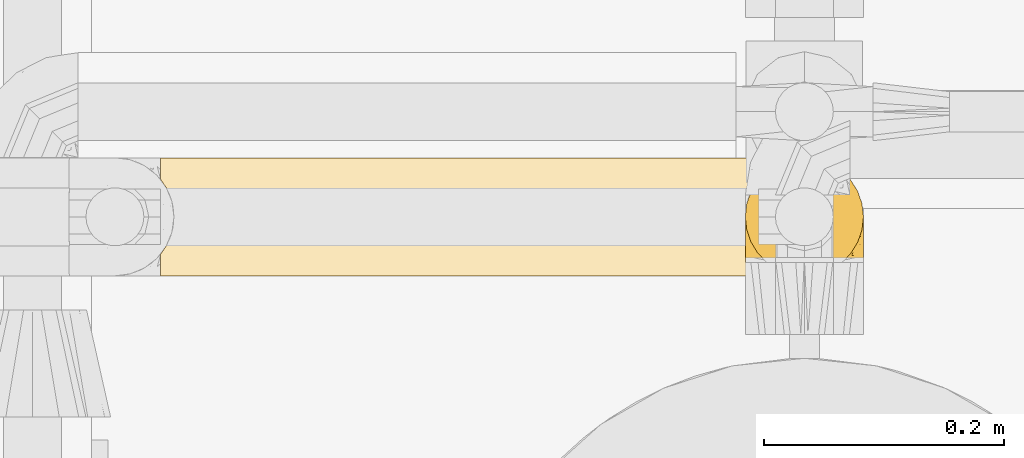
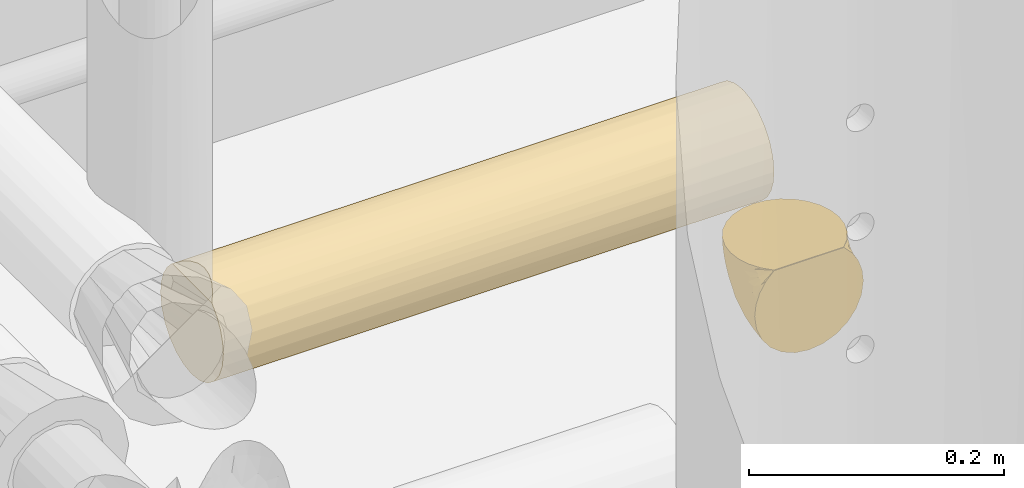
# One storey, part 37 of 94: 2 coverings.
"""IFC2X3 building model written with IfcOpenShell, lengths in millimetres."""

from ifc_helpers import new_model, entity, si_unit, converted_unit, derived_unit, direction, frame, origin, place, context, subcontext, project, spatial, faceted_brep, material, element, save


model = new_model("IFC2X3")

# Units and contexts
model_context = context("Model", 3, precision=0.01, world=origin(), true_north=direction((6.123031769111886e-17, 1.0)))
body_context = subcontext(model_context, "Body", "Model", "MODEL_VIEW")
ifc_project = project(units=[si_unit("LENGTHUNIT", "METRE", prefix="MILLI"), si_unit("AREAUNIT", "SQUARE_METRE"), si_unit("VOLUMEUNIT", "CUBIC_METRE"), converted_unit("PLANEANGLEUNIT", "DEGREE", entity("IfcRatioMeasure", 0.017453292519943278), si_unit("PLANEANGLEUNIT", "RADIAN"), dimensions=[0, 0, 0, 0, 0, 0, 0]), si_unit("MASSUNIT", "GRAM", prefix="KILO"), derived_unit("MASSDENSITYUNIT", [(si_unit("MASSUNIT", "GRAM", prefix="KILO"), 1), (si_unit("LENGTHUNIT", "METRE"), -3)]), derived_unit("IONCONCENTRATIONUNIT", [(si_unit("MASSUNIT", "GRAM", prefix="KILO"), 1), (si_unit("LENGTHUNIT", "METRE"), -3)]), derived_unit("MOMENTOFINERTIAUNIT", [(si_unit("LENGTHUNIT", "METRE"), 4)]), si_unit("TIMEUNIT", "SECOND"), si_unit("FREQUENCYUNIT", "HERTZ"), si_unit("THERMODYNAMICTEMPERATUREUNIT", "DEGREE_CELSIUS"), derived_unit("THERMALTRANSMITTANCEUNIT", [(si_unit("MASSUNIT", "GRAM", prefix="KILO"), 1), (si_unit("THERMODYNAMICTEMPERATUREUNIT", "KELVIN"), -1), (si_unit("TIMEUNIT", "SECOND"), -3)]), derived_unit("THERMALCONDUCTANCEUNIT", [(si_unit("MASSUNIT", "GRAM", prefix="KILO"), 1), (si_unit("THERMODYNAMICTEMPERATUREUNIT", "KELVIN"), -1), (si_unit("TIMEUNIT", "SECOND"), -3), (si_unit("LENGTHUNIT", "METRE"), 1)]), derived_unit("VOLUMETRICFLOWRATEUNIT", [(si_unit("LENGTHUNIT", "METRE"), 3), (si_unit("TIMEUNIT", "SECOND"), -1)]), derived_unit("MASSFLOWRATEUNIT", [(si_unit("MASSUNIT", "GRAM", prefix="KILO"), 1), (si_unit("TIMEUNIT", "SECOND"), -1)]), derived_unit("ROTATIONALFREQUENCYUNIT", [(si_unit("TIMEUNIT", "SECOND"), -1)]), si_unit("ELECTRICCURRENTUNIT", "AMPERE"), si_unit("ELECTRICVOLTAGEUNIT", "VOLT"), si_unit("POWERUNIT", "WATT"), si_unit("FORCEUNIT", "NEWTON", prefix="KILO"), si_unit("ILLUMINANCEUNIT", "LUX"), si_unit("LUMINOUSFLUXUNIT", "LUMEN"), si_unit("LUMINOUSINTENSITYUNIT", "CANDELA"), derived_unit("USERDEFINED", [(si_unit("MASSUNIT", "GRAM", prefix="KILO"), -1), (si_unit("LENGTHUNIT", "METRE"), -2), (si_unit("TIMEUNIT", "SECOND"), 3), (si_unit("LUMINOUSFLUXUNIT", "LUMEN"), 1)]), derived_unit("USERDEFINED", [(si_unit("MASSUNIT", "GRAM", prefix="KILO"), 1), (si_unit("TIMEUNIT", "SECOND"), -3), (si_unit("LENGTHUNIT", "METRE"), 3), (si_unit("ELECTRICCURRENTUNIT", "AMPERE"), -2)]), derived_unit("SOUNDPOWERUNIT", [(si_unit("MASSUNIT", "GRAM", prefix="KILO"), 1), (si_unit("TIMEUNIT", "SECOND"), -3), (si_unit("LENGTHUNIT", "METRE"), 2)]), derived_unit("SOUNDPRESSUREUNIT", [(si_unit("MASSUNIT", "GRAM", prefix="KILO"), 1), (si_unit("LENGTHUNIT", "METRE"), -1), (si_unit("TIMEUNIT", "SECOND"), -2)]), derived_unit("LINEARVELOCITYUNIT", [(si_unit("LENGTHUNIT", "METRE"), 1), (si_unit("TIMEUNIT", "SECOND"), -1)]), si_unit("PRESSUREUNIT", "PASCAL"), derived_unit("USERDEFINED", [(si_unit("MASSUNIT", "GRAM", prefix="KILO"), 1), (si_unit("LENGTHUNIT", "METRE"), -2), (si_unit("TIMEUNIT", "SECOND"), -2)]), derived_unit("LINEARFORCEUNIT", [(si_unit("MASSUNIT", "GRAM", prefix="KILO"), 1), (si_unit("TIMEUNIT", "SECOND"), -2)]), derived_unit("PLANARFORCEUNIT", [(si_unit("MASSUNIT", "GRAM", prefix="KILO"), 1), (si_unit("LENGTHUNIT", "METRE"), -1), (si_unit("TIMEUNIT", "SECOND"), -2)]), derived_unit("SPECIFICHEATCAPACITYUNIT", [(si_unit("THERMODYNAMICTEMPERATUREUNIT", "KELVIN"), -1), (si_unit("LENGTHUNIT", "METRE"), 2), (si_unit("TIMEUNIT", "SECOND"), -2)]), derived_unit("HEATINGVALUEUNIT", [(si_unit("LENGTHUNIT", "METRE"), 2), (si_unit("TIMEUNIT", "SECOND"), -2)]), derived_unit("VAPORPERMEABILITYUNIT", [(si_unit("LENGTHUNIT", "METRE"), -1), (si_unit("TIMEUNIT", "SECOND"), 1)]), derived_unit("DYNAMICVISCOSITYUNIT", [(si_unit("MASSUNIT", "GRAM", prefix="KILO"), 1), (si_unit("TIMEUNIT", "SECOND"), -1), (si_unit("LENGTHUNIT", "METRE"), -1)]), derived_unit("THERMALEXPANSIONCOEFFICIENTUNIT", [(si_unit("THERMODYNAMICTEMPERATUREUNIT", "KELVIN"), -1)]), derived_unit("MODULUSOFELASTICITYUNIT", [(si_unit("MASSUNIT", "GRAM", prefix="KILO"), 1), (si_unit("LENGTHUNIT", "METRE"), -1), (si_unit("TIMEUNIT", "SECOND"), -2)]), derived_unit("ISOTHERMALMOISTURECAPACITYUNIT", [(si_unit("LENGTHUNIT", "METRE"), 3), (si_unit("MASSUNIT", "GRAM", prefix="KILO"), -1)]), derived_unit("MOISTUREDIFFUSIVITYUNIT", [(si_unit("TIMEUNIT", "SECOND"), -1), (si_unit("LENGTHUNIT", "METRE"), 2)])], contexts=[model_context])

# Site, building, storey
site_placement = place(None, origin())
site = spatial("IfcSite", under=ifc_project, at=site_placement, Name="Default", CompositionType="ELEMENT")
building_placement = place(site_placement, origin())
building = spatial("IfcBuilding", under=site, at=building_placement, CompositionType="ELEMENT")
storey_placement = place(building_placement, origin())
storey = spatial("IfcBuildingStorey", under=building, at=storey_placement, Name="Niveau 0", CompositionType="ELEMENT", Elevation=0.0)

# Coverings
ifc_material = material(Name="Isolation - Laine minérale")
covering_1_placement = place(storey_placement, frame((-6334.979732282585, 9235.877474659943, 307.1279765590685)))
element("IfcCovering", 1, at=covering_1_placement, inside=storey, material=ifc_material, Name="Isolation des canalisations:Laine minérale", ObjectType="Isolation des canalisations:Laine minérale", PredefinedType="INSULATION", context=body_context, shape_type="Brep", body=[
    faceted_brep([(98.66173151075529, 50.54257295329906, 88.75024464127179), (95.02415814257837, 60.933342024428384, 88.75024464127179), (89.16631019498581, 70.25222455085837, 88.75024464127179), (81.38263886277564, 78.03292825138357, 88.75024464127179), (72.06354573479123, 83.88624860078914, 88.75024464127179), (61.67593083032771, 87.51933626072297, 88.75024464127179), (50.74527223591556, 88.75020435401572, 88.75024464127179), (39.80290363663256, 87.5166636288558, 88.75024464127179), (29.41213456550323, 83.87909026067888, 88.75024464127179), (20.093252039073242, 78.02124231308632, 88.75024464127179), (12.31254833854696, 70.23757098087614, 88.75024464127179), (6.459227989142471, 60.91847785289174, 88.75024464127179), (2.826140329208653, 50.530862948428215, 88.75024464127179), (1.5952722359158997, 39.600204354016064, 88.75024464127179), (2.7654259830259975, 28.93920751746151, 88.75024464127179), (6.218530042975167, 18.789348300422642, 88.75024464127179), (11.788635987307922, 9.631837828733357, 88.75024464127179), (19.200386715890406, 1.908790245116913, 88.75024464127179), (21.64442029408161, 1.908790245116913, 88.75024464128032), (23.420557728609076, 1.908790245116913, 88.75024464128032), (25.196695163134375, 1.908790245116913, 88.75024464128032), (26.695772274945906, 1.908790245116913, 88.75024464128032), (28.194849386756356, 1.908790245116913, 88.75024464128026), (31.193003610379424, 1.908790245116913, 88.75024464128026), (34.19115783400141, 1.908790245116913, 88.75024464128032), (37.18931205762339, 1.908790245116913, 88.75024464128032), (40.18746628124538, 1.908790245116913, 88.75024464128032), (41.68654339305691, 1.908790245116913, 88.75024464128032), (43.18562050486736, 1.908790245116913, 88.75024464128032), (45.62965408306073, 1.908790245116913, 88.75024464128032), (48.07368766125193, 1.908790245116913, 88.75024464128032), (50.51772123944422, 1.908790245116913, 88.75024464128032), (52.96175481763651, 1.908790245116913, 88.75024464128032), (55.40578839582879, 1.908790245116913, 88.75024464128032), (57.84982197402, 1.908790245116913, 88.75024464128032), (60.293855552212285, 1.908790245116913, 88.75024464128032), (62.73788913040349, 1.9087902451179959, 88.75024464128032), (65.18192270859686, 1.908790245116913, 88.75024464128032), (67.62595628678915, 1.908790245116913, 88.75024464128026), (70.06998986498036, 1.908790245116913, 88.75024464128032), (72.51402344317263, 1.908790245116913, 88.75024464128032), (74.95805702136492, 1.90879024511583, 88.75024464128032), (77.40209059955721, 1.908790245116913, 88.75024464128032), (79.8461241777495, 1.908790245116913, 88.75024464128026), (82.2901577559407, 1.908790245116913, 88.75024464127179), (89.71468838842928, 9.648458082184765, 88.75024464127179), (95.28202866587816, 18.810788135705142, 88.75024464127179), (98.72966172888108, 28.959674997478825, 88.75024464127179), (99.89527223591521, 39.600204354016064, 88.75024464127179), (19.200386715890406, 1.5952722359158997, 88.43668560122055), (11.780641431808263, 1.596284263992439, 80.70324289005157), (6.213521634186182, 1.597482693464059, 71.54540837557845), (2.76372347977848, 1.5988105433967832, 61.3986035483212), (1.5952722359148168, 1.600204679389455, 50.7452718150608), (3.270017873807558, 1.6018693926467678, 38.02431585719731), (8.18012363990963, 1.6034206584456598, 26.17027202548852), (15.990973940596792, 1.6047527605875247, 15.990973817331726), (26.17027223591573, 1.6057749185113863, 8.180123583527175), (38.02431616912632, 1.6064174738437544, 3.2700178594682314), (50.74527223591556, 1.6066366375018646, 1.5952722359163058), (63.466228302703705, 1.6064174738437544, 3.2700178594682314), (75.32027223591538, 1.6057749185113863, 8.180123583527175), (85.49957053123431, 1.6047527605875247, 15.990973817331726), (93.3104208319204, 1.6034206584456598, 26.17027202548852), (98.22052659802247, 1.6018693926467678, 38.02431585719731), (99.89527223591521, 1.600204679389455, 50.7452718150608), (98.72682099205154, 1.5988105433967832, 61.398603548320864), (95.27702283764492, 1.597482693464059, 71.5454083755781), (89.70990304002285, 1.596284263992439, 80.70324289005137), (82.2901577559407, 1.5952722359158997, 88.43668560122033), (79.84612417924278, 1.5952722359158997, 88.43668560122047), (78.34704706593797, 1.5952722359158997, 88.43668560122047), (76.3754917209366, 1.5952722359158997, 88.43668560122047), (74.40393637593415, 1.5952722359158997, 88.43668560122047), (72.43238103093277, 1.5952722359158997, 88.43668560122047), (70.46082568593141, 1.5952722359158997, 88.43668560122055), (68.48927034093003, 1.5952722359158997, 88.43668560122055), (66.51771499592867, 1.5952722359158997, 88.43668560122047), (64.54615965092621, 1.5952722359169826, 88.43668560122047), (62.57460430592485, 1.5952722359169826, 88.43668560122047), (60.60304896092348, 1.5952722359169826, 88.43668560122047), (58.63149361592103, 1.5952722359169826, 88.43668560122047), (56.65993827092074, 1.5952722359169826, 88.43668560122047), (54.68838292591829, 1.5952722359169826, 88.43668560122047), (52.71682758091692, 1.5952722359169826, 88.43668560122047), (50.74527223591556, 1.5952722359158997, 88.43668560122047), (48.77371689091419, 1.5952722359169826, 88.43668560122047), (46.80216154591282, 1.5952722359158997, 88.43668560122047), (44.83060620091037, 1.5952722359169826, 88.43668560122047), (42.85905085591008, 1.5952722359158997, 88.4366856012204), (40.88749551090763, 1.5952722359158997, 88.43668560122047), (38.91594016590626, 1.5952722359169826, 88.43668560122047), (36.944384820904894, 1.5952722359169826, 88.43668560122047), (34.97282947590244, 1.5952722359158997, 88.43668560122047), (31.974675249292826, 1.5952722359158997, 88.43668560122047), (28.976521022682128, 1.5952722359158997, 88.43668560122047), (26.5324874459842, 1.5952722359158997, 88.43668560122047), (24.088453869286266, 1.5952722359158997, 88.43668560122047), (21.644420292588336, 1.5952722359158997, 88.43668560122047), (53.75234396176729, 1.8096173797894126, 88.52142628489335), (51.831673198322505, 1.8183338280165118, 88.52991649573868), (61.47040111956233, 1.8192923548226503, 88.53089133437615), (63.56038247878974, 1.8127397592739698, 88.52439225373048), (47.999959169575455, 1.799663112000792, 88.51249084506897), (77.24488137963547, 1.8054253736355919, 88.51756958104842), (80.69337174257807, 1.8491536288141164, 88.56628085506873), (42.43608140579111, 1.82232738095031, 88.53403502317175), (22.86643696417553, 1.816965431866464, 88.52853942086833), (24.705183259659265, 1.8149891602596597, 88.52658035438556), (71.36648187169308, 1.8238939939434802, 88.53569254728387), (73.39945266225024, 1.8137523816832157, 88.52537186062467), (44.40763676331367, 1.8357719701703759, 88.54909938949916), (37.93016199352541, 1.810889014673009, 88.52262438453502), (39.814628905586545, 1.8072854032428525, 88.51926349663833), (35.958606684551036, 1.824527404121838, 88.536369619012), (49.7594944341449, 1.8112678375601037, 88.52298389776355), (21.033411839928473, 1.8145888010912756, 88.52618769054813), (55.67416106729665, 1.8038486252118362, 88.5161548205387), (67.50349308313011, 1.8029935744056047, 88.51539560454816), (65.61167825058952, 1.8077638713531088, 88.51970367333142), (34.10788654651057, 1.8062113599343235, 88.5182820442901), (57.55050304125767, 1.806769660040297, 88.51879107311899), (79.09658572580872, 1.816965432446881, 88.52853942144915), (75.38971425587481, 1.8055542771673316, 88.5176860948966), (82.2901577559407, 1.8169654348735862, 88.528539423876), (82.2901577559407, 1.845583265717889, 88.59763537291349), (82.2901577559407, 1.8742010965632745, 88.66673132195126), (19.200386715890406, 1.8169654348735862, 88.528539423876), (19.200386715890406, 1.7478732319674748, 88.49991255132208), (19.200386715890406, 1.6787810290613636, 88.47128567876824), (32.21556915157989, 1.8305167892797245, 88.5429767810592), (69.43167748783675, 1.8100463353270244, 88.52182894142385), (46.24591341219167, 1.8179607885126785, 88.52953939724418), (59.48799014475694, 1.815768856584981, 88.5273491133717), (29.421540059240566, 1.8346974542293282, 88.54782135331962), (27.445310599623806, 1.8130836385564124, 88.52472393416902), (82.2901577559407, 1.678781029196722, 88.471285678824), (82.29015775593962, 1.7478732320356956, 88.4999125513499), (19.200386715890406, 1.8742010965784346, 88.66673132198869), (19.200386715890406, 1.8455832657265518, 88.5976353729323), (4.211230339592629, 5.123009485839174, 66.84861281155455), (8.746725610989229, 4.40646751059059, 76.5974346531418), (4.211230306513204, 9.266302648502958, 67.93483295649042), (9.95745010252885, 7.210527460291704, 79.78222763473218), (1.5952722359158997, 11.100396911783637, 53.291951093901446), (1.5952722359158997, 9.05709196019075, 52.74421034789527), (1.5952722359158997, 34.50933230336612, 69.74919380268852), (2.93512266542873, 23.951323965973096, 74.32313406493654), (4.214399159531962, 22.40200714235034, 81.08268511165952), (1.5952722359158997, 20.600589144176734, 55.838630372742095), (9.399942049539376, 9.676664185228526, 80.66873253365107), (9.96535340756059, 10.55308491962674, 83.14085938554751), (2.9352661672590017, 16.024570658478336, 66.39630683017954), (4.214399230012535, 23.487943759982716, 85.22568483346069), (8.753205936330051, 13.737827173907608, 85.94213996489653), (5.691352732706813, 10.696141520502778, 72.80291364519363), (1.5952722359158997, 37.60224171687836, 81.29309599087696), (1.5952722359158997, 37.05476832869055, 79.24971922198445), (4.481009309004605, 16.73649998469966, 73.61095726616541), (1.5952722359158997, 27.554960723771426, 62.79391208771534), (5.766022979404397, 16.465366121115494, 78.27192678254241), (2.611721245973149, 15.018386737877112, 42.71845155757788), (2.6575576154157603, 24.437275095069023, 46.34233444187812), (11.131101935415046, 36.50104386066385, 31.445721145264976), (20.824647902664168, 31.212892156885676, 17.676122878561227), (11.751954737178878, 19.184015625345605, 23.14139388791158), (5.336592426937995, 23.34325027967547, 36.26368849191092), (5.3365928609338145, 11.467837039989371, 32.80074345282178), (50.74527223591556, 52.8291752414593, 18.244412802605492), (50.74527223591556, 28.536276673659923, 5.863759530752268), (40.33987607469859, 36.47746359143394, 10.097423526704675), (9.124243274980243, 64.56064384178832, 76.49417253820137), (4.3510453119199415, 54.101298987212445, 75.17961940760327), (32.646834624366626, 60.784976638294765, 29.56824815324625), (23.76886273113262, 59.577760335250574, 34.960970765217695), (35.61394240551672, 75.0539100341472, 46.448843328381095), (41.69580019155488, 19.039447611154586, 4.216662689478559), (30.508731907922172, 43.1084074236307, 17.113827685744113), (21.748035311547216, 46.844464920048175, 25.59799586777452), (20.82464796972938, 15.060071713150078, 12.938407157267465), (31.93638275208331, 23.248726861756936, 8.196141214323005), (15.984346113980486, 53.24820265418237, 37.516295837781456), (9.510643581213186, 45.833459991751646, 41.46536524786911), (11.40593818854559, 56.64192156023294, 49.738045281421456), (3.723600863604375, 46.293343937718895, 61.57301570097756), (9.124242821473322, 60.30177104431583, 62.89687775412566), (15.984347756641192, 72.0331993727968, 70.54475511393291), (50.74527223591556, 84.48524121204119, 61.820046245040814), (34.50535109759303, 83.30416638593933, 67.62963396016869), (18.535495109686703, 64.73225281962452, 48.0292018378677), (24.58819413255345, 74.45912877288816, 56.661932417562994), (24.588193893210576, 79.74522749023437, 73.53888681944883), (39.072678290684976, 51.84421664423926, 19.26718015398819), (42.34622864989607, 65.00190954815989, 30.012806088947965), (2.5632724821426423, 37.181336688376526, 56.96943364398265), (50.74527223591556, 72.10776710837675, 37.52552770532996), (4.722923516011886, 37.65263275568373, 46.877734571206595), (69.55416102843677, 32.176984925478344, 11.144872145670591), (59.58537611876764, 18.65121792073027, 4.097947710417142), (59.865094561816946, 35.77866098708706, 9.507349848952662), (66.13729838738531, 47.852379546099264, 17.817656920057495), (69.5541622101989, 15.289967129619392, 6.468462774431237), (85.49332196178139, 65.81986731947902, 54.54473550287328), (78.98792075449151, 64.56014671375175, 42.32400086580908), (76.88743080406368, 74.46781356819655, 56.65839303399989), (85.49294527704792, 53.2576120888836, 37.50696273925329), (78.28835843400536, 54.63386168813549, 30.590483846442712), (97.13479117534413, 54.11397295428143, 75.17488824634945), (98.95307032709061, 19.80861324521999, 44.791452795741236), (99.89527223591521, 20.600589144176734, 55.83863037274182), (99.89527223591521, 11.100396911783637, 53.291951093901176), (66.97173870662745, 83.30927322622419, 67.63057848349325), (80.6658965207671, 21.11076992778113, 14.26614983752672), (92.35692696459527, 60.315340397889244, 62.89067215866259), (92.3569265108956, 64.57534267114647, 76.49160014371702), (89.7385894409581, 13.473512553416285, 21.87130087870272), (96.1539517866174, 16.343641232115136, 33.88404937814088), (79.62442222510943, 41.93971846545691, 22.256677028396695), (89.73859028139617, 27.72305000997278, 26.05077397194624), (59.507595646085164, 59.12987583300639, 24.336520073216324), (68.83464839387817, 60.78751377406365, 29.565711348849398), (99.01275710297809, 10.51983794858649, 42.3231412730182), (76.8874310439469, 79.75436229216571, 73.53675051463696), (65.85789904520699, 75.05888601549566, 46.445365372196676), (85.4929436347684, 72.04603079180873, 70.54143866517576), (97.76381634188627, 46.29516596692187, 61.556239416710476), (99.89527223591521, 34.50933230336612, 69.74919380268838), (98.78948738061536, 36.11146001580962, 54.860963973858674), (99.89527223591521, 27.554960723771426, 62.79391208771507), (99.89527223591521, 37.60224171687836, 81.2930959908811), (99.89527223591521, 37.05476832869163, 79.24971922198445), (91.50349826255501, 41.93433467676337, 37.18025978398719), (96.42686098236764, 26.206300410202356, 38.29129555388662), (93.14965019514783, 50.240159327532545, 48.9433048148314), (99.083323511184, 27.45702643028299, 49.62281530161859), (86.0907014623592, 42.675219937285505, 29.427411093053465), (96.67803982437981, 34.96062555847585, 44.40553973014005), (97.27931377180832, 9.26630267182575, 67.93483419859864), (95.72666073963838, 12.078818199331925, 73.87788124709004), (98.5550344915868, 16.02493517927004, 66.39775929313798), (97.27931393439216, 5.123009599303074, 66.84861341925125), (92.74381851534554, 4.406467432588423, 76.59743521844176), (91.5345451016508, 7.210847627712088, 79.77988226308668), (90.1054858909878, 7.655562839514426, 82.6926505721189), (97.00680843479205, 16.731124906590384, 73.61633086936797), (91.54780603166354, 10.584255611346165, 83.12724658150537), (97.28332723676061, 22.423965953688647, 81.08117918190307), (97.28332737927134, 23.509309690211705, 85.22548379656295), (92.7489300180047, 13.756706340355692, 85.93915349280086), (98.55478984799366, 23.949149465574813, 74.32465267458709), (95.80511116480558, 17.55897900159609, 79.65070311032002)], [[[0, 1, 2, 3, 4, 5, 6, 7, 8, 9, 10, 11, 12, 13, 14, 15, 16, 17, 18, 19, 20, 21, 22, 23, 24, 25, 26, 27, 28, 29, 30, 31, 32, 33, 34, 35, 36, 37, 38, 39, 40, 41, 42, 43, 44, 45, 46, 47, 48]], [[49, 50, 51, 52, 53, 54, 55, 56, 57, 58, 59, 60, 61, 62, 63, 64, 65, 66, 67, 68, 69, 70, 71, 72, 73, 74, 75, 76, 77, 78, 79, 80, 81, 82, 83, 84, 85, 86, 87, 88, 89, 90, 91, 92, 93, 94, 95, 96, 97, 98]], [[99, 100, 84]], [[101, 102, 36]], [[86, 103, 87]], [[72, 71, 104]], [[105, 70, 69]], [[28, 27, 106]], [[19, 107, 108]], [[109, 74, 110]], [[29, 28, 111]], [[26, 112, 113]], [[108, 97, 96]], [[114, 93, 92]], [[103, 86, 115]], [[97, 107, 98]], [[107, 18, 116]], [[79, 102, 101]], [[99, 117, 33]], [[77, 118, 119]], [[120, 93, 114]], [[112, 91, 113]], [[89, 111, 106]], [[41, 40, 110]], [[107, 97, 108]], [[33, 117, 121]], [[92, 91, 112]], [[38, 119, 118]], [[85, 115, 86]], [[70, 105, 122]], [[72, 123, 73]], [[105, 124, 125, 126, 44]], [[116, 18, 17]], [[122, 71, 70]], [[42, 122, 43]], [[116, 127, 128, 129, 49]], [[110, 123, 41]], [[43, 122, 105]], [[120, 24, 130]], [[25, 114, 112]], [[114, 25, 24]], [[104, 123, 72]], [[92, 112, 114]], [[104, 122, 42]], [[25, 112, 26]], [[110, 73, 123]], [[37, 119, 38]], [[41, 123, 42]], [[75, 74, 109]], [[131, 76, 75]], [[118, 131, 38]], [[109, 110, 40]], [[109, 40, 39]], [[74, 73, 110]], [[123, 104, 42]], [[122, 104, 71]], [[27, 26, 113]], [[113, 90, 106]], [[88, 87, 132]], [[113, 106, 27]], [[77, 76, 118]], [[132, 111, 88]], [[106, 111, 28]], [[132, 29, 111]], [[88, 111, 89]], [[89, 106, 90]], [[113, 91, 90]], [[131, 118, 76]], [[39, 38, 131]], [[119, 37, 102]], [[131, 109, 39]], [[109, 131, 75]], [[79, 78, 102]], [[78, 119, 102]], [[78, 77, 119]], [[121, 81, 133]], [[37, 36, 102]], [[34, 121, 133]], [[80, 79, 101]], [[35, 101, 36]], [[132, 30, 29]], [[81, 80, 133]], [[30, 103, 115]], [[31, 30, 115]], [[87, 103, 132]], [[100, 115, 85]], [[32, 31, 100]], [[115, 100, 31]], [[33, 32, 99]], [[117, 82, 121]], [[100, 85, 84]], [[99, 83, 117]], [[82, 117, 83]], [[34, 33, 121]], [[83, 99, 84]], [[100, 99, 32]], [[35, 34, 133]], [[121, 82, 81]], [[133, 101, 35]], [[101, 133, 80]], [[134, 95, 94]], [[24, 120, 114]], [[132, 103, 30]], [[120, 94, 93]], [[94, 120, 130]], [[98, 107, 116]], [[108, 21, 20, 19]], [[22, 135, 134]], [[21, 135, 22]], [[134, 135, 95]], [[108, 96, 135]], [[108, 135, 21]], [[135, 96, 95]], [[134, 23, 22]], [[130, 23, 134]], [[43, 105, 44]], [[105, 69, 136, 137, 124]], [[98, 116, 49]], [[116, 17, 138, 139, 127]], [[19, 18, 107]], [[94, 130, 134]], [[23, 130, 24]], [[140, 141, 142]], [[143, 129, 128, 127]], [[52, 144, 145, 53]], [[146, 147, 148]], [[142, 149, 144]], [[150, 127, 151]], [[51, 140, 52]], [[142, 152, 149]], [[52, 140, 144]], [[129, 143, 141]], [[15, 14, 153]], [[148, 151, 154]], [[155, 141, 143]], [[151, 138, 154]], [[15, 153, 154]], [[17, 16, 138]], [[14, 13, 156, 157]], [[152, 155, 158]], [[159, 158, 147]], [[157, 148, 153]], [[15, 154, 16]], [[50, 49, 129]], [[50, 129, 141]], [[141, 51, 50]], [[160, 148, 147]], [[146, 148, 157]], [[138, 16, 154]], [[150, 158, 155]], [[151, 127, 139, 138]], [[141, 140, 51]], [[144, 140, 142]], [[157, 153, 14]], [[154, 153, 148]], [[149, 152, 159]], [[160, 147, 158]], [[147, 146, 159]], [[155, 152, 142]], [[159, 152, 158]], [[127, 150, 143]], [[160, 150, 151]], [[150, 160, 158]], [[148, 160, 151]], [[141, 155, 142]], [[155, 143, 150]], [[156, 13, 12]], [[161, 149, 162]], [[163, 164, 165]], [[166, 167, 161]], [[168, 169, 170]], [[55, 165, 56]], [[171, 172, 11]], [[173, 174, 175]], [[58, 176, 59]], [[173, 177, 178]], [[179, 57, 56]], [[55, 167, 165]], [[170, 180, 177]], [[57, 179, 180]], [[167, 55, 54]], [[181, 182, 183]], [[184, 146, 172]], [[172, 185, 184]], [[186, 185, 171]], [[186, 10, 9]], [[172, 146, 157, 156]], [[172, 12, 11]], [[173, 178, 174]], [[7, 187, 188]], [[189, 186, 190]], [[191, 186, 9]], [[175, 190, 188]], [[168, 192, 193]], [[189, 190, 174]], [[57, 180, 58]], [[9, 8, 191]], [[188, 8, 7]], [[7, 6, 187]], [[190, 191, 188]], [[159, 194, 162]], [[175, 187, 195]], [[177, 180, 164]], [[11, 10, 171]], [[176, 180, 170]], [[156, 12, 172]], [[54, 53, 145]], [[163, 165, 166]], [[179, 165, 164]], [[185, 189, 183]], [[184, 196, 194]], [[188, 191, 8]], [[186, 191, 190]], [[186, 171, 10]], [[172, 171, 185]], [[187, 175, 188]], [[193, 175, 195]], [[196, 163, 166]], [[163, 181, 178]], [[162, 166, 161]], [[184, 185, 183]], [[178, 177, 164]], [[177, 192, 170]], [[177, 173, 192]], [[176, 170, 169]], [[59, 176, 169]], [[58, 180, 176]], [[193, 192, 173]], [[168, 170, 192]], [[175, 193, 173]], [[168, 193, 195]], [[163, 178, 164]], [[184, 194, 146]], [[178, 181, 174]], [[189, 174, 181]], [[175, 174, 190]], [[183, 189, 181]], [[186, 189, 185]], [[182, 181, 163]], [[183, 182, 184]], [[163, 196, 182]], [[184, 182, 196]], [[165, 179, 56]], [[180, 179, 164]], [[161, 54, 145]], [[165, 167, 166]], [[54, 161, 167]], [[161, 145, 144, 149]], [[159, 162, 149]], [[196, 166, 162]], [[162, 194, 196]], [[146, 194, 159]], [[197, 198, 199]], [[59, 169, 198]], [[197, 199, 200]], [[198, 197, 201]], [[202, 203, 204]], [[61, 60, 201]], [[205, 206, 203]], [[1, 0, 207]], [[208, 209, 210]], [[187, 5, 211]], [[201, 212, 61]], [[213, 214, 207]], [[62, 215, 63]], [[63, 215, 216]], [[4, 211, 5]], [[217, 218, 212]], [[219, 220, 200]], [[216, 208, 221]], [[4, 3, 222]], [[63, 216, 64]], [[62, 61, 212]], [[211, 4, 222]], [[6, 5, 187]], [[217, 197, 200]], [[203, 223, 204]], [[3, 2, 224]], [[225, 213, 207]], [[204, 222, 224]], [[2, 1, 214]], [[204, 224, 202]], [[207, 226, 225]], [[227, 226, 228]], [[223, 211, 204]], [[214, 224, 2]], [[202, 224, 213]], [[0, 48, 229]], [[207, 229, 230, 226]], [[211, 223, 187]], [[218, 231, 232]], [[0, 229, 207]], [[205, 233, 231]], [[233, 213, 225]], [[217, 212, 197]], [[215, 212, 218]], [[228, 234, 227]], [[233, 205, 202]], [[208, 234, 209]], [[64, 221, 65]], [[235, 205, 231]], [[207, 214, 1]], [[224, 214, 213]], [[224, 222, 3]], [[211, 222, 204]], [[219, 223, 220]], [[187, 223, 195]], [[227, 233, 225]], [[234, 228, 209]], [[231, 233, 236]], [[221, 208, 210]], [[232, 208, 216]], [[65, 221, 210]], [[216, 221, 64]], [[233, 202, 213]], [[203, 202, 205]], [[205, 235, 206]], [[223, 203, 220]], [[200, 206, 217]], [[220, 203, 206]], [[232, 231, 236]], [[235, 218, 217]], [[212, 215, 62]], [[216, 215, 218]], [[218, 232, 216]], [[234, 232, 236]], [[232, 234, 208]], [[234, 236, 227]], [[233, 227, 236]], [[226, 227, 225]], [[198, 201, 60]], [[212, 201, 197]], [[59, 198, 60]], [[198, 169, 199]], [[169, 168, 199]], [[219, 200, 199]], [[219, 199, 168]], [[200, 220, 206]], [[168, 195, 219]], [[223, 219, 195]], [[218, 235, 231]], [[206, 235, 217]], [[66, 65, 210]], [[209, 237, 210]], [[238, 237, 239]], [[67, 240, 241]], [[242, 136, 241]], [[243, 137, 242]], [[243, 244, 245]], [[66, 240, 67]], [[136, 69, 68]], [[136, 68, 241]], [[246, 226, 230]], [[67, 241, 68]], [[210, 237, 240]], [[46, 247, 47]], [[209, 239, 237]], [[246, 247, 248]], [[47, 247, 230]], [[249, 250, 244]], [[239, 228, 244]], [[226, 246, 249]], [[250, 248, 245]], [[45, 44, 126]], [[237, 242, 241]], [[248, 46, 45]], [[45, 126, 248]], [[47, 230, 229, 48]], [[245, 126, 125]], [[126, 245, 248]], [[243, 124, 137]], [[210, 240, 66]], [[241, 240, 237]], [[248, 247, 46]], [[230, 247, 246]], [[226, 249, 228]], [[238, 239, 244]], [[239, 209, 228]], [[250, 249, 246]], [[228, 249, 244]], [[243, 242, 238]], [[136, 242, 137]], [[124, 243, 125]], [[125, 243, 245]], [[243, 238, 244]], [[237, 238, 242]], [[248, 250, 246]], [[244, 250, 245]]]),
])
covering_2_placement = place(storey_placement, frame((-6821.732524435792, 9224.752406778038, 448.2747277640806)))
element("IfcCovering", 2, at=covering_2_placement, inside=storey, material=ifc_material, Name="Isolation des canalisations:Laine minérale", ObjectType="Isolation des canalisations:Laine minérale", PredefinedType="INSULATION", context=body_context, shape_type="Brep", body=[
    faceted_brep([(499.4980643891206, 98.65694811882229, 39.94049838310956), (499.4980643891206, 99.85527223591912, 50.72527223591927), (499.4980643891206, 98.18120808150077, 63.44105192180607), (499.4980643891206, 93.27310032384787, 75.29027223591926), (499.4980643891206, 85.4654283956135, 85.46542839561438), (499.4980643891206, 75.29027223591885, 93.27310032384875), (499.4980643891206, 63.441051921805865, 98.18120808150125), (499.4980643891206, 50.72527223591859, 99.85527223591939), (499.4980643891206, 38.00949255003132, 98.18120808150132), (499.4980643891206, 26.160272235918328, 93.27310032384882), (499.4980643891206, 15.98511607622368, 85.46542839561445), (499.4980643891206, 8.177444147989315, 75.29027223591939), (499.4980643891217, 3.269336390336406, 63.441051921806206), (499.4980643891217, 1.5952722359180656, 50.725272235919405), (499.4980643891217, 2.7935963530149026, 39.940498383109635), (499.4980643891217, 6.323164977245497, 29.696487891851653), (499.4980643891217, 12.012544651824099, 20.474956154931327), (499.4980643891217, 19.584352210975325, 12.725272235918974), (499.4980643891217, 81.86619226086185, 12.725272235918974), (499.4980643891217, 89.43799982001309, 20.474956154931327), (499.4980643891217, 95.12737949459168, 29.69648789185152), (1.5952722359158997, 99.85527223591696, 50.725272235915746), (1.5952722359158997, 98.18120808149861, 38.00949255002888), (1.5952722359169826, 93.2731003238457, 26.160272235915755), (1.5952722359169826, 85.46542839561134, 15.985116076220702), (1.5952722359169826, 75.29027223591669, 8.177444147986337), (1.5952722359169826, 63.4410519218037, 3.2693363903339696), (1.5952722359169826, 50.72527223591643, 1.5952722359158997), (1.5952722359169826, 38.00949255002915, 3.2693363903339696), (1.5952722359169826, 26.160272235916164, 8.177444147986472), (1.5952722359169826, 15.985116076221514, 15.985116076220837), (1.5952722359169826, 8.17744414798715, 26.16027223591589), (1.5952722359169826, 3.26933639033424, 38.009492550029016), (1.5952722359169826, 1.5952722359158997, 50.72527223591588), (1.5952722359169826, 2.7935963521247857, 61.51004608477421), (1.5952722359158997, 6.323164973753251, 71.75405657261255), (1.5952722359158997, 12.012544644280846, 80.97558830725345), (1.5952722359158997, 19.58435219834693, 88.72527222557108), (1.5952722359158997, 81.86619229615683, 88.72527220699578), (1.5952722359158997, 89.43799984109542, 80.97558828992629), (1.5952722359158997, 95.12737950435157, 71.75405655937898), (1.5952722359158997, 98.65694812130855, 61.51004607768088), (491.234164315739, 34.19020495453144, 4.461372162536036), (489.08989198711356, 42.33445912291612, 2.317099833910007), (488.36806438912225, 50.72527223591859, 1.5952722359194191), (494.7378732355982, 26.531823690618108, 7.965081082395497), (489.08989198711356, 59.11608534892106, 2.317099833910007), (491.234164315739, 67.26033951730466, 4.461372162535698), (494.7378732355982, 74.91872078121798, 7.965081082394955), (6.355310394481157, 74.9187208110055, 93.4854633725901), (9.858906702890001, 67.26033953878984, 96.9891723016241), (12.003110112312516, 59.116085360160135, 99.13344463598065), (12.724914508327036, 50.72527223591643, 99.85527223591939), (12.003110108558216, 42.33445911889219, 99.13344463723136), (9.858906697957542, 34.19020494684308, 96.98917230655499), (6.3553103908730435, 26.53182367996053, 93.4854633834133)], [[[0, 1, 2, 3, 4, 5, 6, 7, 8, 9, 10, 11, 12, 13, 14, 15, 16, 17, 18, 19, 20]], [[21, 22, 23, 24, 25, 26, 27, 28, 29, 30, 31, 32, 33, 34, 35, 36, 37, 38, 39, 40, 41]], [[33, 32, 14]], [[32, 31, 15]], [[16, 31, 30]], [[13, 33, 14]], [[15, 14, 32]], [[16, 15, 31]], [[30, 17, 16]], [[42, 29, 28]], [[28, 27, 43]], [[44, 43, 27]], [[45, 17, 29]], [[43, 42, 28]], [[45, 29, 42]], [[29, 17, 30]], [[46, 44, 27]], [[46, 27, 26]], [[47, 26, 25]], [[47, 46, 26]], [[18, 48, 25]], [[47, 25, 48]], [[25, 24, 18]], [[19, 24, 23]], [[20, 23, 22]], [[0, 22, 21]], [[19, 23, 20]], [[20, 22, 0]], [[21, 1, 0]], [[24, 19, 18]], [[1, 21, 41]], [[2, 41, 40]], [[3, 40, 39]], [[1, 41, 2]], [[2, 40, 3]], [[39, 4, 3]], [[39, 38, 4]], [[38, 49, 5]], [[50, 51, 6]], [[49, 50, 5]], [[5, 50, 6]], [[7, 6, 51]], [[52, 7, 51]], [[38, 5, 4]], [[53, 54, 8]], [[55, 37, 9]], [[54, 55, 9]], [[52, 53, 7]], [[7, 53, 8]], [[54, 9, 8]], [[37, 10, 9]], [[11, 36, 35]], [[12, 35, 34]], [[13, 34, 33]], [[10, 36, 11]], [[11, 35, 12]], [[34, 13, 12]], [[36, 10, 37]], [[46, 47, 48, 18, 17, 45, 42, 43, 44]], [[37, 55, 54, 53, 52, 51, 50, 49, 38]]]),
])

save(model, "model.ifc")
